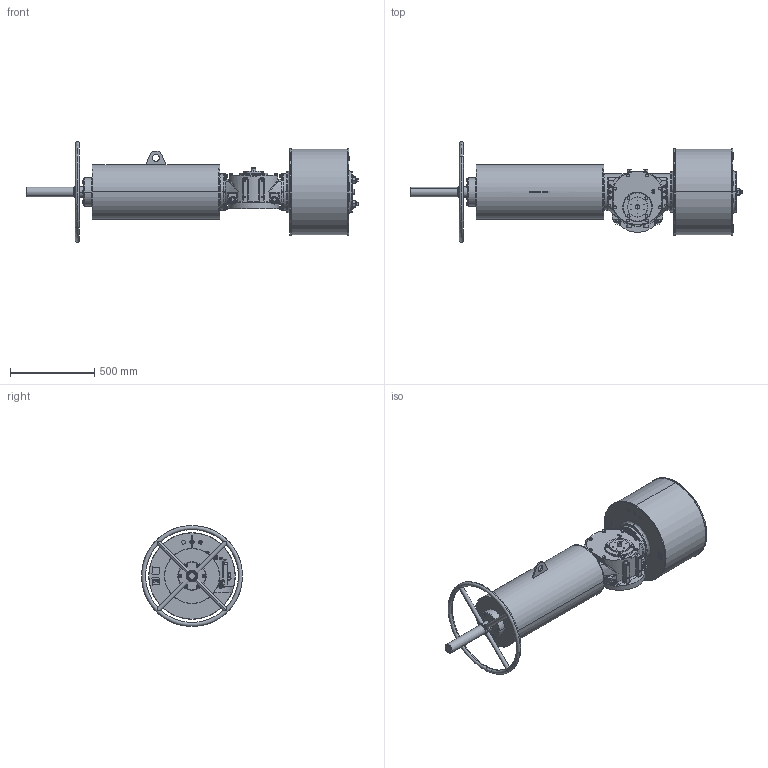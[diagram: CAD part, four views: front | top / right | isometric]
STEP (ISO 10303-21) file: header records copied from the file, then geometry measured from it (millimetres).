
FILE_DESCRIPTION (( 'STEP AP203' ), '1' );
FILE_NAME ('VTS3-500-SR-MS-FO.STEP', '2022-12-31T08:57:30', ( '' ), ( '' ), 'SwSTEP 2.0', 'SolidWorks 2020', '' );
FILE_SCHEMA (( 'CONFIG_CONTROL_DESIGN' ));
Length unit declared in the file: millimetre
Products named in the file (1): VTS3-500-SR-MS-FO
Bounding box: 1970.2 x 597.72 x 597.72 mm (x, y, z)
Volume: 158737362.8 mm3; surface area: 3281598 mm2
Topology: 22 solids, 25 shells, 2248 faces, 5872 edges, 3721 vertices
Faces by surface type: plane 862, cylinder 692, cone 471, bspline 151, torus 44, sphere 28
Entity records: 87226 total; most frequent: CARTESIAN_POINT 33800, ORIENTED_EDGE 11446, DIRECTION 10967, EDGE_CURVE 5723, AXIS2_PLACEMENT_3D 4412, VERTEX_POINT 3665, EDGE_LOOP 2506, CIRCLE 2314
